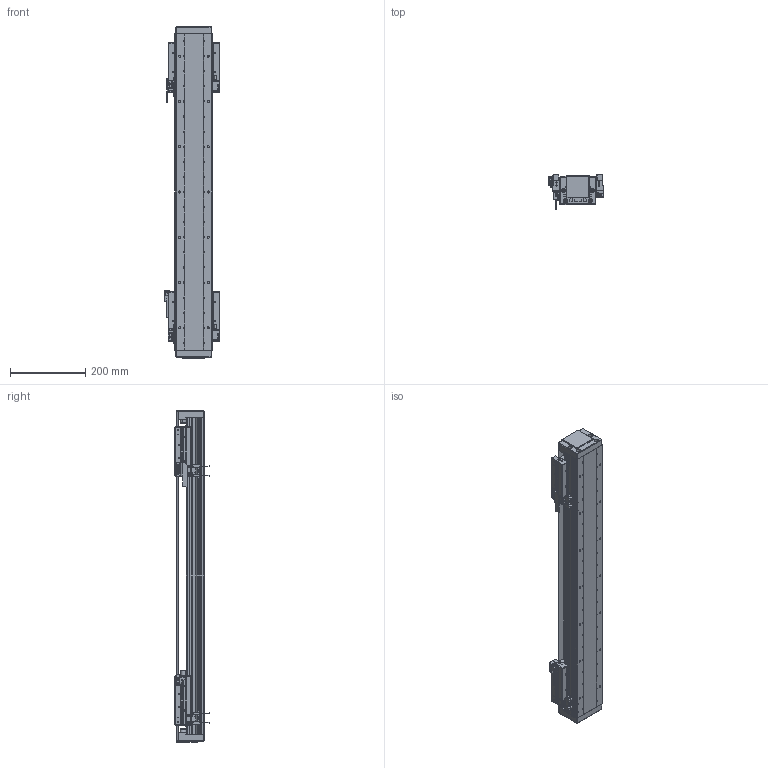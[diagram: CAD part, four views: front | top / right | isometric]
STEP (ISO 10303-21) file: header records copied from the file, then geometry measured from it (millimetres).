
FILE_DESCRIPTION (( 'STEP AP203' ), '1' );
FILE_NAME ('DA-B95-2-B15-T500-C010-0.2 直线电机.STEP', '2023-05-06T06:24:44', ( '微软用户' ), ( '微软中国' ), 'SwSTEP 2.0', 'SolidWorks 2019', '' );
FILE_SCHEMA (( 'CONFIG_CONTROL_DESIGN' ));
Length unit declared in the file: millimetre
Products named in the file (32): DA95-DG-H-01^DA-A95-B15-T-C010-0.2-N 眻盄萇儂; 66245-BU95-V 幗紩賑怢; 复件 DKW-HXJ-JY-00 缓冲橡胶^DA-A95-B15-T-C010-0.2-N 直线电机; 复件 六角薄螺母 M3^DA-A95-B15-T-C010-0.2-N 直线电机_GB_FASTENER_NUT_STNAB M3-C; 葩璃 PM-Y45^DA-A95-B15-T-C010-0.2-N 眻盄萇儂; DA95-HXJ-00 缓冲橡胶^DA-A95-B15-T-C010-0.2-N 直线电机; 复件 DA95-B15-YB-B-00 压板B^66245-BU95-V 滚珠滑台; IU-BU95-L-00 菁釱_L840; IU-BU95-L 菁釱絳寢; DA-B95-2-B15-T500-C010-0.2 眻盄萇儂; 复件 DA95-HK-GT-00 滑块钢轨^66245-BU95-V-00 一体化滑动台板; DA-A95-GYP-00 光电感应片^DA-A95-B15-T-C010-0.2-N 直线电机; 葩璃 DA95-B15-DP-A-00 菜えA^66245-BU95-V 幗紩賑怢; 葩璃 BKMA01-W060-TRL^DA-A95-B15-T-C010-0.2-N 眻盄萇儂; 葩璃 DA95-GT-T-00^IU-BU95-L 菁釱絳寢_DA95; 复件 66245-BU95-HT-V-01 滑动台板^66245-BU95-V-00 一体化滑动台板; 复件 纯铜油杯 6x6mm^66245-BU95-V 滚珠滑台; 复件 DA95-DB-00  挡板^66245-BU95-V 滚珠滑台; 葩璃 BKM015-W060-C1-TP-DA-0.2^DA-A95-B15-T-C010-0.2-N 眻盄萇儂; 66245-BU95-V-00 珨极趙賑雄怢啣; PM-T45 光电开关^DA-A95-B15-T-C010-0.2-N 直线电机; 复件 DA95-B15-YB-A-00 压板A^66245-BU95-V 滚珠滑台; B15 XD-U-02L ｴﾅﾕ､ｳﾟ^DA-A95-B15-T-C010-0.2-N ﾖｱﾏﾟｵ扈銈XD-U-02L; LMDK-2-R001-V5-L02-C1-F00，0.2M 读数头^DA-A95-B15-T-C010-0.2-N 直线电机_DMA-010-0.2; ｸｴｼ DA95-Txxx-002-00 ｸﾇｰ蘓DA-A95-B15-T-C010-0.2-N ﾖｱﾏﾟｵ扈銈T+30; 复件 DKW-KGZ-ZJ-00 中间光电开关支架^DA-A95-B15-T-C010-0.2-N 直线电机; 复件 DKW-GYP-ZJ-00 中间光电感应片^DA-A95-B15-T-C010-0.2-N 直线电机; 葩璃 DA95-B15-DP--B-00 菜えB^66245-BU95-V 幗紩賑怢; 复件 DA95-MFP-01 密封片^66245-BU95-V 滚珠滑台; 复件 DA95-DK-00 挡块^66245-BU95-V 滚珠滑台
Assembly tree (76 placements, depth 4):
  DA-B95-2-B15-T500-C010-0.2 眻盄萇儂
    IU-BU95-L 菁釱絳寢
      IU-BU95-L-00 菁釱_L840
      葩璃 DA95-GT-T-00^IU-BU95-L 菁釱絳寢_DA95  x2
    66245-BU95-V 幗紩賑怢
      66245-BU95-V-00 珨极趙賑雄怢啣
        复件 66245-BU95-HT-V-01 滑动台板^66245-BU95-V-00 一体化滑动台板
        复件 DA95-HK-GT-00 滑块钢轨^66245-BU95-V-00 一体化滑动台板  x2
      葩璃 DA95-B15-DP-A-00 菜えA^66245-BU95-V 幗紩賑怢
      复件 DA95-B15-YB-A-00 压板A^66245-BU95-V 滚珠滑台
      复件 DA95-B15-YB-B-00 压板B^66245-BU95-V 滚珠滑台
      复件 DA95-DB-00  挡板^66245-BU95-V 滚珠滑台  x4
      复件 DA95-DK-00 挡块^66245-BU95-V 滚珠滑台  x2
      复件 DA95-MFP-01 密封片^66245-BU95-V 滚珠滑台  x4
      复件 纯铜油杯 6x6mm^66245-BU95-V 滚珠滑台  x2
      葩璃 DA95-B15-DP--B-00 菜えB^66245-BU95-V 幗紩賑怢
    66245-BU95-V 幗紩賑怢
      66245-BU95-V-00 珨极趙賑雄怢啣
        复件 66245-BU95-HT-V-01 滑动台板^66245-BU95-V-00 一体化滑动台板
        复件 DA95-HK-GT-00 滑块钢轨^66245-BU95-V-00 一体化滑动台板  x2
      葩璃 DA95-B15-DP-A-00 菜えA^66245-BU95-V 幗紩賑怢
      复件 DA95-B15-YB-A-00 压板A^66245-BU95-V 滚珠滑台
      复件 DA95-B15-YB-B-00 压板B^66245-BU95-V 滚珠滑台
      复件 DA95-DB-00  挡板^66245-BU95-V 滚珠滑台  x4
      复件 DA95-DK-00 挡块^66245-BU95-V 滚珠滑台  x2
      复件 DA95-MFP-01 密封片^66245-BU95-V 滚珠滑台  x4
      复件 纯铜油杯 6x6mm^66245-BU95-V 滚珠滑台  x2
      葩璃 DA95-B15-DP--B-00 菜えB^66245-BU95-V 幗紩賑怢
    DA-A95-GYP-00 光电感应片^DA-A95-B15-T-C010-0.2-N 直线电机  x2
    LMDK-2-R001-V5-L02-C1-F00，0.2M 读数头^DA-A95-B15-T-C010-0.2-N 直线电机_DMA-010-0.2  x2
    复件 DKW-KGZ-ZJ-00 中间光电开关支架^DA-A95-B15-T-C010-0.2-N 直线电机
    葩璃 PM-Y45^DA-A95-B15-T-C010-0.2-N 眻盄萇儂
    复件 DKW-GYP-ZJ-00 中间光电感应片^DA-A95-B15-T-C010-0.2-N 直线电机
    葩璃 BKM015-W060-C1-TP-DA-0.2^DA-A95-B15-T-C010-0.2-N 眻盄萇儂  x2
    复件 DKW-HXJ-JY-00 缓冲橡胶^DA-A95-B15-T-C010-0.2-N 直线电机  x2
    PM-T45 光电开关^DA-A95-B15-T-C010-0.2-N 直线电机  x4
    B15 XD-U-02L ｴﾅﾕ､ｳﾟ^DA-A95-B15-T-C010-0.2-N ﾖｱﾏﾟｵ扈銈XD-U-02L
    DA95-DG-H-01^DA-A95-B15-T-C010-0.2-N 眻盄萇儂  x2
    ｸｴｼ DA95-Txxx-002-00 ｸﾇｰ蘓DA-A95-B15-T-C010-0.2-N ﾖｱﾏﾟｵ扈銈T+30
    DA95-HXJ-00 缓冲橡胶^DA-A95-B15-T-C010-0.2-N 直线电机  x4
    葩璃 BKMA01-W060-TRL^DA-A95-B15-T-C010-0.2-N 眻盄萇儂
    复件 六角薄螺母 M3^DA-A95-B15-T-C010-0.2-N 直线电机_GB_FASTENER_NUT_STNAB M3-C  x6
Bounding box: 145.4 x 90.2 x 880 mm (x, y, z)
Volume: 3901530.4 mm3; surface area: 1183502.6 mm2
Topology: 71 solids, 89 shells, 4206 faces, 10816 edges, 6653 vertices
Faces by surface type: cylinder 1796, plane 1458, cone 544, bspline 344, torus 60, sphere 4
Entity records: 82229 total; most frequent: CARTESIAN_POINT 22636, ORIENTED_EDGE 11570, DIRECTION 11435, EDGE_CURVE 5785, AXIS2_PLACEMENT_3D 4267, VERTEX_POINT 3668, LINE 2901, VECTOR 2901
